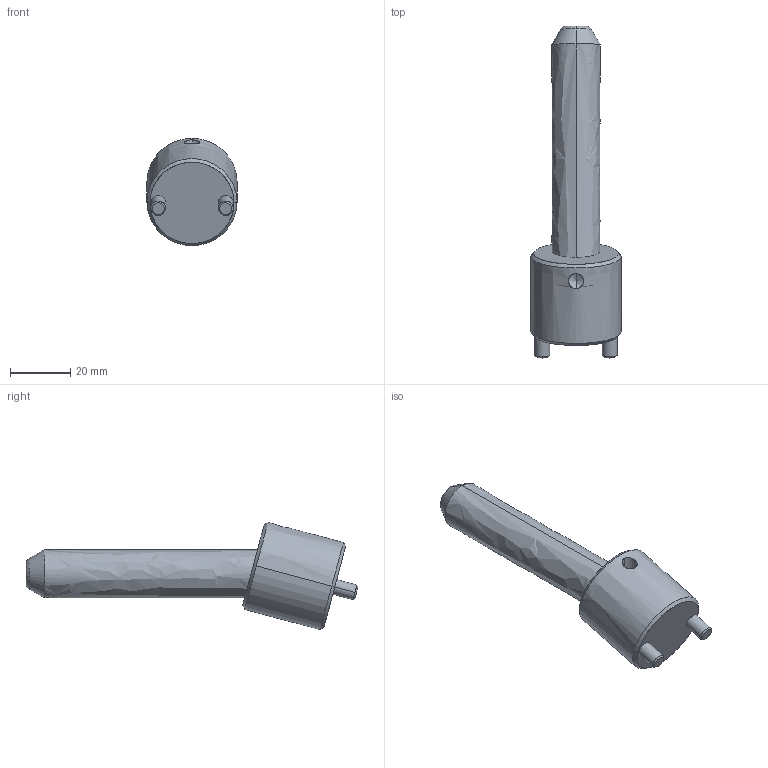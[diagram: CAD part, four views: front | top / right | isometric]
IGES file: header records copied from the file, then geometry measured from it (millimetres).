
Start section: START RECORD GO HERE.
Global section: file name: CI1516075.igs; native system: DASSAULT SYSTEMES CATIA V5 R20 - www.3ds.com; preprocessor: CATIA Version 5 Release 20 ; author: r.borello; organization: CFTORINO; date: 20190621.161256; units: millimetre
Bounding box: 30 x 110.58 x 35.71 mm (x, y, z)
Surface area: 10705.7 mm2 (no closed solid volume)
Topology: 0 solids, 0 shells, 39 faces, 162 edges, 160 vertices
Faces by surface type: revolution 32, plane 7
